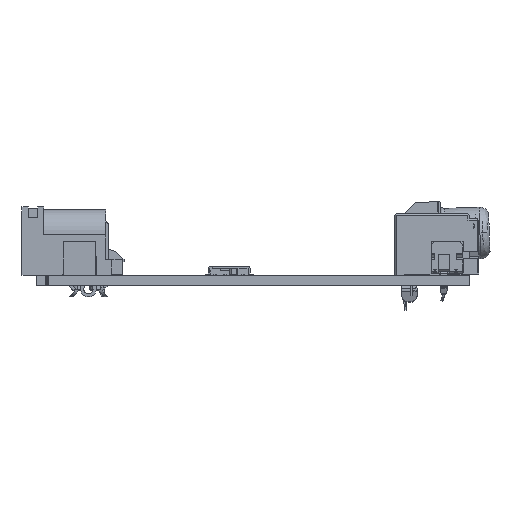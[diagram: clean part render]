
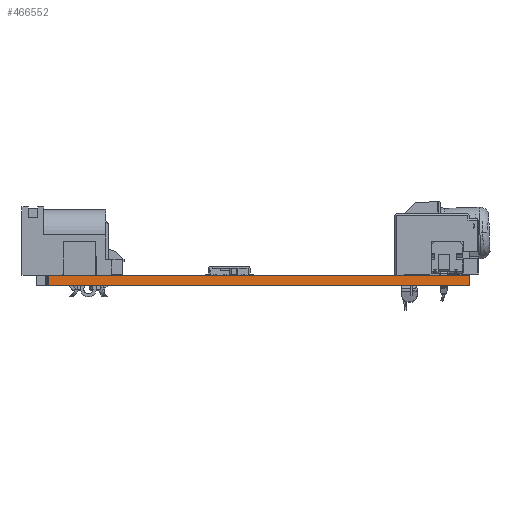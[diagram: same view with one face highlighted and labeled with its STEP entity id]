
A CAD part, left-side view. The second image highlights one B-rep face of the part: STEP entity #466552.
In plain terms, the highlighted planar face has unit normal (-1, 0, 0).
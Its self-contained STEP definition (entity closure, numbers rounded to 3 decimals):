
#450538 = PLANE('',#450539);
#450539 = AXIS2_PLACEMENT_3D('',#450540,#450541,#450542);
#450540 = CARTESIAN_POINT('',(21.306,33.135,1.64));
#450541 = DIRECTION('',(-0.,-0.,-1.));
#450542 = DIRECTION('',(-1.,0.,0.));
#450592 = PLANE('',#450593);
#450593 = AXIS2_PLACEMENT_3D('',#450594,#450595,#450596);
#450594 = CARTESIAN_POINT('',(21.306,33.135,0.));
#450595 = DIRECTION('',(-0.,-0.,-1.));
#450596 = DIRECTION('',(-1.,0.,0.));
#452073 = VERTEX_POINT('',#452074);
#452074 = CARTESIAN_POINT('',(-30.,0.05,0.));
#452088 = PLANE('',#452089);
#452089 = AXIS2_PLACEMENT_3D('',#452090,#452091,#452092);
#452090 = CARTESIAN_POINT('',(-18.383,0.05,0.));
#452091 = DIRECTION('',(0.,-1.,0.));
#452092 = DIRECTION('',(-1.,0.,0.));
#452100 = EDGE_CURVE('',#452073,#452101,#452103,.T.);
#452101 = VERTEX_POINT('',#452102);
#452102 = CARTESIAN_POINT('',(-30.,68.,0.));
#452103 = SURFACE_CURVE('',#452104,(#452108,#452115),.PCURVE_S1.);
#452104 = LINE('',#452105,#452106);
#452105 = CARTESIAN_POINT('',(-30.,0.05,0.));
#452106 = VECTOR('',#452107,1.);
#452107 = DIRECTION('',(0.,1.,0.));
#452108 = PCURVE('',#450592,#452109);
#452109 = DEFINITIONAL_REPRESENTATION('',(#452110),#452114);
#452110 = LINE('',#452111,#452112);
#452111 = CARTESIAN_POINT('',(51.306,-33.085));
#452112 = VECTOR('',#452113,1.);
#452113 = DIRECTION('',(0.,1.));
#452114 = ( GEOMETRIC_REPRESENTATION_CONTEXT(2) 
PARAMETRIC_REPRESENTATION_CONTEXT() REPRESENTATION_CONTEXT('2D SPACE',''
  ) );
#452115 = PCURVE('',#452116,#452121);
#452116 = PLANE('',#452117);
#452117 = AXIS2_PLACEMENT_3D('',#452118,#452119,#452120);
#452118 = CARTESIAN_POINT('',(-30.,0.05,0.));
#452119 = DIRECTION('',(-1.,0.,0.));
#452120 = DIRECTION('',(0.,1.,0.));
#452121 = DEFINITIONAL_REPRESENTATION('',(#452122),#452126);
#452122 = LINE('',#452123,#452124);
#452123 = CARTESIAN_POINT('',(0.,0.));
#452124 = VECTOR('',#452125,1.);
#452125 = DIRECTION('',(1.,0.));
#452126 = ( GEOMETRIC_REPRESENTATION_CONTEXT(2) 
PARAMETRIC_REPRESENTATION_CONTEXT() REPRESENTATION_CONTEXT('2D SPACE',''
  ) );
#452144 = PLANE('',#452145);
#452145 = AXIS2_PLACEMENT_3D('',#452146,#452147,#452148);
#452146 = CARTESIAN_POINT('',(-30.,68.,0.));
#452147 = DIRECTION('',(0.,1.,0.));
#452148 = DIRECTION('',(1.,0.,0.));
#460223 = VERTEX_POINT('',#460224);
#460224 = CARTESIAN_POINT('',(-30.,0.05,1.64));
#460245 = EDGE_CURVE('',#460223,#460246,#460248,.T.);
#460246 = VERTEX_POINT('',#460247);
#460247 = CARTESIAN_POINT('',(-30.,68.,1.64));
#460248 = SURFACE_CURVE('',#460249,(#460253,#460260),.PCURVE_S1.);
#460249 = LINE('',#460250,#460251);
#460250 = CARTESIAN_POINT('',(-30.,0.05,1.64));
#460251 = VECTOR('',#460252,1.);
#460252 = DIRECTION('',(0.,1.,0.));
#460253 = PCURVE('',#450538,#460254);
#460254 = DEFINITIONAL_REPRESENTATION('',(#460255),#460259);
#460255 = LINE('',#460256,#460257);
#460256 = CARTESIAN_POINT('',(51.306,-33.085));
#460257 = VECTOR('',#460258,1.);
#460258 = DIRECTION('',(0.,1.));
#460259 = ( GEOMETRIC_REPRESENTATION_CONTEXT(2) 
PARAMETRIC_REPRESENTATION_CONTEXT() REPRESENTATION_CONTEXT('2D SPACE',''
  ) );
#460260 = PCURVE('',#452116,#460261);
#460261 = DEFINITIONAL_REPRESENTATION('',(#460262),#460266);
#460262 = LINE('',#460263,#460264);
#460263 = CARTESIAN_POINT('',(0.,-1.64));
#460264 = VECTOR('',#460265,1.);
#460265 = DIRECTION('',(1.,0.));
#460266 = ( GEOMETRIC_REPRESENTATION_CONTEXT(2) 
PARAMETRIC_REPRESENTATION_CONTEXT() REPRESENTATION_CONTEXT('2D SPACE',''
  ) );
#466502 = EDGE_CURVE('',#452101,#460246,#466503,.T.);
#466503 = SURFACE_CURVE('',#466504,(#466508,#466515),.PCURVE_S1.);
#466504 = LINE('',#466505,#466506);
#466505 = CARTESIAN_POINT('',(-30.,68.,0.));
#466506 = VECTOR('',#466507,1.);
#466507 = DIRECTION('',(0.,0.,1.));
#466508 = PCURVE('',#452144,#466509);
#466509 = DEFINITIONAL_REPRESENTATION('',(#466510),#466514);
#466510 = LINE('',#466511,#466512);
#466511 = CARTESIAN_POINT('',(0.,0.));
#466512 = VECTOR('',#466513,1.);
#466513 = DIRECTION('',(0.,-1.));
#466514 = ( GEOMETRIC_REPRESENTATION_CONTEXT(2) 
PARAMETRIC_REPRESENTATION_CONTEXT() REPRESENTATION_CONTEXT('2D SPACE',''
  ) );
#466515 = PCURVE('',#452116,#466516);
#466516 = DEFINITIONAL_REPRESENTATION('',(#466517),#466521);
#466517 = LINE('',#466518,#466519);
#466518 = CARTESIAN_POINT('',(67.95,0.));
#466519 = VECTOR('',#466520,1.);
#466520 = DIRECTION('',(0.,-1.));
#466521 = ( GEOMETRIC_REPRESENTATION_CONTEXT(2) 
PARAMETRIC_REPRESENTATION_CONTEXT() REPRESENTATION_CONTEXT('2D SPACE',''
  ) );
#466552 = ADVANCED_FACE('',(#466553),#452116,.T.);
#466553 = FACE_BOUND('',#466554,.T.);
#466554 = EDGE_LOOP('',(#466555,#466576,#466577,#466578));
#466555 = ORIENTED_EDGE('',*,*,#466556,.T.);
#466556 = EDGE_CURVE('',#452073,#460223,#466557,.T.);
#466557 = SURFACE_CURVE('',#466558,(#466562,#466569),.PCURVE_S1.);
#466558 = LINE('',#466559,#466560);
#466559 = CARTESIAN_POINT('',(-30.,0.05,0.));
#466560 = VECTOR('',#466561,1.);
#466561 = DIRECTION('',(0.,0.,1.));
#466562 = PCURVE('',#452116,#466563);
#466563 = DEFINITIONAL_REPRESENTATION('',(#466564),#466568);
#466564 = LINE('',#466565,#466566);
#466565 = CARTESIAN_POINT('',(0.,0.));
#466566 = VECTOR('',#466567,1.);
#466567 = DIRECTION('',(0.,-1.));
#466568 = ( GEOMETRIC_REPRESENTATION_CONTEXT(2) 
PARAMETRIC_REPRESENTATION_CONTEXT() REPRESENTATION_CONTEXT('2D SPACE',''
  ) );
#466569 = PCURVE('',#452088,#466570);
#466570 = DEFINITIONAL_REPRESENTATION('',(#466571),#466575);
#466571 = LINE('',#466572,#466573);
#466572 = CARTESIAN_POINT('',(11.618,0.));
#466573 = VECTOR('',#466574,1.);
#466574 = DIRECTION('',(0.,-1.));
#466575 = ( GEOMETRIC_REPRESENTATION_CONTEXT(2) 
PARAMETRIC_REPRESENTATION_CONTEXT() REPRESENTATION_CONTEXT('2D SPACE',''
  ) );
#466576 = ORIENTED_EDGE('',*,*,#460245,.T.);
#466577 = ORIENTED_EDGE('',*,*,#466502,.F.);
#466578 = ORIENTED_EDGE('',*,*,#452100,.F.);
